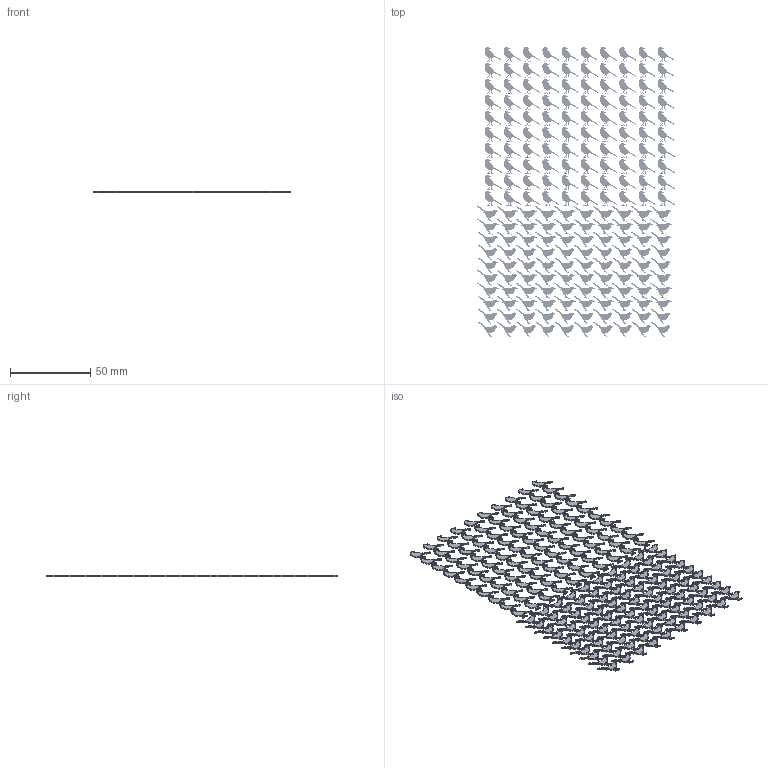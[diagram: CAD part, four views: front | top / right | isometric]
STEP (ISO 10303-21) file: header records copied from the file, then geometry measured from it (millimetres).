
FILE_DESCRIPTION(/* description */ ('STEP AP242','CAx-IF Rec.Pracs.---Representation and Presentation of Product Manufacturing Information (PMI)---4.0---2014-10-13','CAx-IF Rec.Pracs.---3D Tessellated Geometry---0.4---2014-09-14','2;1'),/* implementation_level */ '2;1');
FILE_NAME(/* name */ '66ce7e6ad9940c57f27cc70d',/* time_stamp */ '2024-08-28T01:33:35Z',/* author */ (''),/* organization */ (''),/* preprocessor_version */ 'ST-DEVELOPER v20',/* originating_system */ ' ',/* authorisation */ ' ');
FILE_SCHEMA (('AP242_MANAGED_MODEL_BASED_3D_ENGINEERING_MIM_LF { 1 0 10303 442 1 1 4 }'));
Products named in the file (200): Part 1; Part 3; Part 4; Part 5; Part 6; Part 7; Part 8; Part 9; Part 10; Part 11; Part 12; Part 13; Part 14; Part 15; Part 16; Part 17; Part 18; Part 19; Part 20; Part 21; Part 22; Part 23; Part 24; Part 25; Part 26; Part 27; Part 28; Part 29; Part 30; Part 31; Part 32; Part 33; Part 34; Part 35; Part 36; Part 37; Part 38; Part 39; Part 40; Part 41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
Bounding box: 123.07 x 181.11 x 0.8 mm (x, y, z)
Volume: 5489.6 mm3; surface area: 20538.7 mm2
Topology: 200 solids, 200 shells, 5700 faces, 15900 edges, 10600 vertices
Faces by surface type: bspline 4500, plane 1200
Entity records: 269902 total; most frequent: CARTESIAN_POINT 149500, ORIENTED_EDGE 31800, EDGE_CURVE 15900, VERTEX_POINT 10600, DIRECTION 9700, B_SPLINE_CURVE_WITH_KNOTS 9000, LINE 6900, VECTOR 6900
